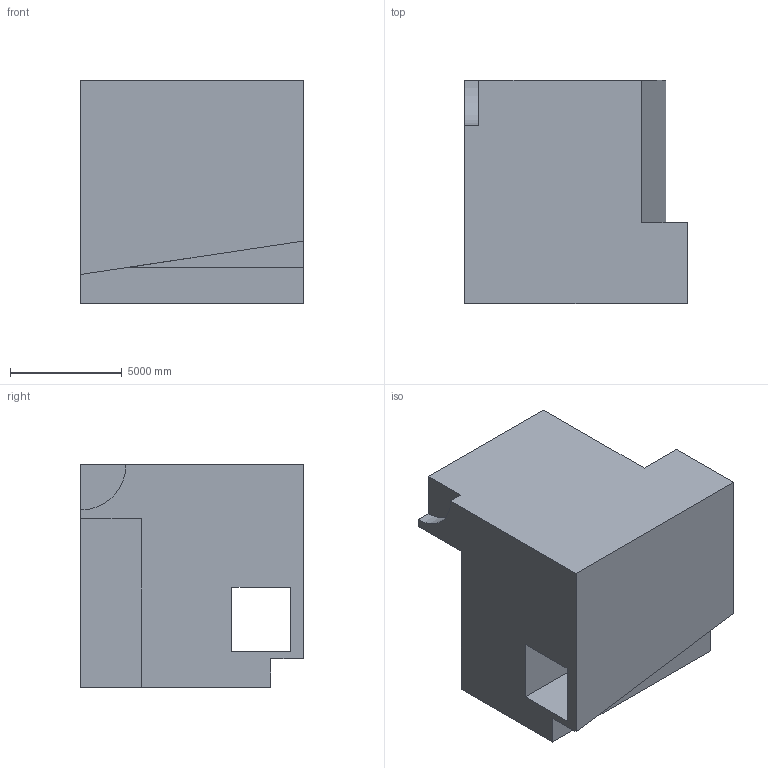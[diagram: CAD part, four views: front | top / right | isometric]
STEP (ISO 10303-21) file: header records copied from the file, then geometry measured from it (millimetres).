
FILE_DESCRIPTION (( 'STEP AP203' ), '1' );
FILE_NAME ('166.STEP', '2022-09-06T15:18:46', ( 'user' ), ( '' ), 'SwSTEP 2.0', 'SolidWorks 2021', '' );
FILE_SCHEMA (( 'CONFIG_CONTROL_DESIGN' ));
Length unit declared in the file: centimetre
Products named in the file (1): 166
Bounding box: 10000 x 10000 x 10000 mm (x, y, z)
Volume: 735547538316.4 mm3; surface area: 648993983.8 mm2
Topology: 1 solids, 1 shells, 26 faces, 69 edges, 46 vertices
Faces by surface type: plane 21, cylinder 5
Entity records: 884 total; most frequent: CARTESIAN_POINT 142, ORIENTED_EDGE 138, DIRECTION 133, EDGE_CURVE 69, LINE 59, VECTOR 59, VERTEX_POINT 46, AXIS2_PLACEMENT_3D 37
